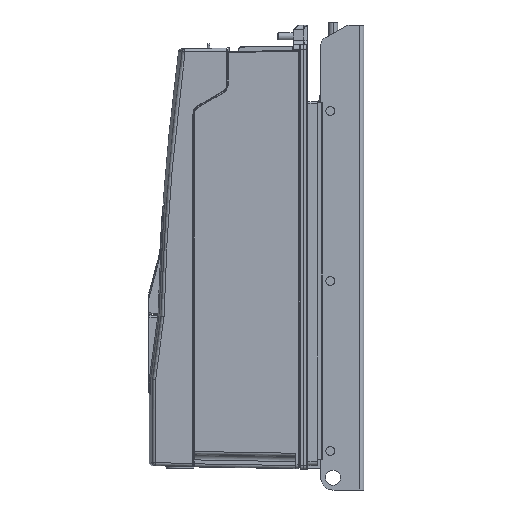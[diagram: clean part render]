
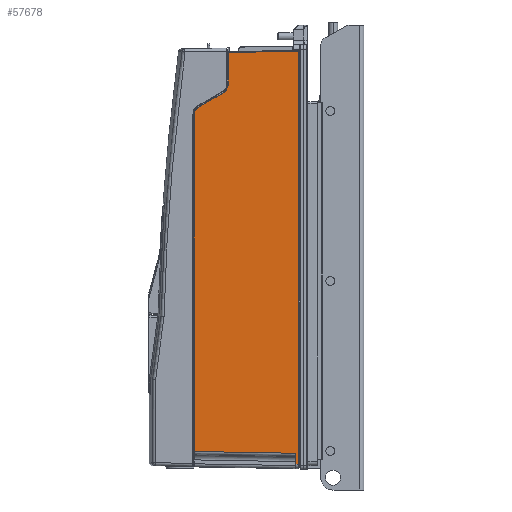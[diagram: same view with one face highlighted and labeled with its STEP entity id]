
A CAD part, left-side view. The second image highlights one B-rep face of the part: STEP entity #57678.
In plain terms, the highlighted planar face has unit normal (-1, 0.018, 0) as drawn and (1, 0.018, 0) by its records, which use the part's own axes.
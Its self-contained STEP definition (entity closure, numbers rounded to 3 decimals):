
#163 = LINE ( 'NONE', #32817, #88318 ) ;
#676 = VECTOR ( 'NONE', #83635, 1000. ) ;
#740 = EDGE_CURVE ( 'NONE', #78823, #39973, #92963, .T. ) ;
#766 = VERTEX_POINT ( 'NONE', #99404 ) ;
#1902 = CARTESIAN_POINT ( 'NONE',  ( 123.207, 5.196, 453.497 ) ) ;
#2436 = CARTESIAN_POINT ( 'NONE',  ( 123.21, 5.009, 454.037 ) ) ;
#3565 =( BOUNDED_CURVE ( )  B_SPLINE_CURVE ( 3, ( #37931, #28333, #62531, #12813 ),
 .UNSPECIFIED., .F., .F. ) 
 B_SPLINE_CURVE_WITH_KNOTS ( ( 4, 4 ),
 ( 0., 1.047 ),
 .UNSPECIFIED. ) 
 CURVE ( )  GEOMETRIC_REPRESENTATION_ITEM ( )  RATIONAL_B_SPLINE_CURVE ( ( 1., 0.911, 0.911, 1. ) ) 
 REPRESENTATION_ITEM ( '' )  );
#7037 = CARTESIAN_POINT ( 'NONE',  ( 121.186, 118.01, 64.519 ) ) ;
#7534 = VERTEX_POINT ( 'NONE', #51339 ) ;
#8317 = CARTESIAN_POINT ( 'NONE',  ( 123.212, 4.939, 453.502 ) ) ;
#8772 = CARTESIAN_POINT ( 'NONE',  ( 121.154, 119.804, 451.497 ) ) ;
#9167 = CARTESIAN_POINT ( 'NONE',  ( 123.269, 1.704, 465.997 ) ) ;
#9503 = CARTESIAN_POINT ( 'NONE',  ( 121.15, 120., 37.726 ) ) ;
#10318 = DIRECTION ( 'NONE',  ( 0.018, -1., 0.017 ) ) ;
#10452 = CARTESIAN_POINT ( 'NONE',  ( 123.213, 4.86, 454.589 ) ) ;
#10454 = B_SPLINE_CURVE_WITH_KNOTS ( 'NONE', 3,
 ( #1902, #18998, #2436, #10452, #100340, #85323 ),
 .UNSPECIFIED., .F., .F.,
 ( 4, 2, 4 ),
 ( 0., 0.001, 0.002 ),
 .UNSPECIFIED. ) ;
#12813 = CARTESIAN_POINT ( 'NONE',  ( 121.743, 86.904, 46.56 ) ) ;
#15040 = CARTESIAN_POINT ( 'NONE',  ( 121.154, 119.804, 67.626 ) ) ;
#16106 = CARTESIAN_POINT ( 'NONE',  ( 121.154, 119.804, 71.213 ) ) ;
#16999 =( BOUNDED_CURVE ( )  B_SPLINE_CURVE ( 3, ( #32681, #7037, #15040, #16106 ),
 .UNSPECIFIED., .F., .F. ) 
 B_SPLINE_CURVE_WITH_KNOTS ( ( 4, 4 ),
 ( 2.094, 3.142 ),
 .UNSPECIFIED. ) 
 CURVE ( )  GEOMETRIC_REPRESENTATION_ITEM ( )  RATIONAL_B_SPLINE_CURVE ( ( 1., 0.911, 0.911, 1. ) ) 
 REPRESENTATION_ITEM ( '' )  );
#17383 = DIRECTION ( 'NONE',  ( -1., -0.018, 0. ) ) ;
#18357 = EDGE_CURVE ( 'NONE', #7534, #39973, #87249, .T. ) ;
#18998 = CARTESIAN_POINT ( 'NONE',  ( 123.209, 5.102, 453.767 ) ) ;
#19543 = VERTEX_POINT ( 'NONE', #9167 ) ;
#22625 = EDGE_CURVE ( 'NONE', #86269, #27479, #25769, .T. ) ;
#23604 = CARTESIAN_POINT ( 'NONE',  ( 123.214, 4.804, 455.156 ) ) ;
#23964 = ORIENTED_EDGE ( 'NONE', *, *, #80888, .T. ) ;
#25518 = LINE ( 'NONE', #90287, #26708 ) ;
#25560 = DIRECTION ( 'NONE',  ( 0.018, -1., 0. ) ) ;
#25621 = CARTESIAN_POINT ( 'NONE',  ( 121.241, 114.904, 62.726 ) ) ;
#25769 = LINE ( 'NONE', #32754, #28911 ) ;
#26708 = VECTOR ( 'NONE', #50619, 1000. ) ;
#26900 = LINE ( 'NONE', #60019, #676 ) ;
#27479 = VERTEX_POINT ( 'NONE', #52251 ) ;
#28333 = CARTESIAN_POINT ( 'NONE',  ( 121.834, 81.804, 41.46 ) ) ;
#28911 = VECTOR ( 'NONE', #65342, 1000. ) ;
#29115 = EDGE_CURVE ( 'NONE', #49703, #94241, #16999, .T. ) ;
#32681 = CARTESIAN_POINT ( 'NONE',  ( 121.241, 114.904, 62.726 ) ) ;
#32754 = CARTESIAN_POINT ( 'NONE',  ( 123.214, 4.804, 471. ) ) ;
#32817 = CARTESIAN_POINT ( 'NONE',  ( 121.241, 114.901, 62.724 ) ) ;
#34035 = CARTESIAN_POINT ( 'NONE',  ( 121.743, 86.904, 46.56 ) ) ;
#34730 = EDGE_CURVE ( 'NONE', #91315, #49703, #163, .T. ) ;
#34943 = EDGE_CURVE ( 'NONE', #27479, #19543, #52495, .T. ) ;
#35083 = EDGE_CURVE ( 'NONE', #70768, #91315, #3565, .T. ) ;
#35146 = DIRECTION ( 'NONE',  ( -0.018, 1., 0.019 ) ) ;
#35315 = VECTOR ( 'NONE', #79739, 1000. ) ;
#35859 = ORIENTED_EDGE ( 'NONE', *, *, #22625, .T. ) ;
#37931 = CARTESIAN_POINT ( 'NONE',  ( 121.834, 81.804, 37.726 ) ) ;
#38163 = ORIENTED_EDGE ( 'NONE', *, *, #740, .T. ) ;
#39973 = VERTEX_POINT ( 'NONE', #103171 ) ;
#41528 = ORIENTED_EDGE ( 'NONE', *, *, #18357, .F. ) ;
#42594 = CARTESIAN_POINT ( 'NONE',  ( 121.154, 119.804, 71.213 ) ) ;
#43523 = PLANE ( 'NONE',  #66886 ) ;
#43677 = ORIENTED_EDGE ( 'NONE', *, *, #35083, .T. ) ;
#44326 = EDGE_CURVE ( 'NONE', #97689, #766, #64961, .T. ) ;
#45485 = ORIENTED_EDGE ( 'NONE', *, *, #44326, .T. ) ;
#46720 = ORIENTED_EDGE ( 'NONE', *, *, #54080, .F. ) ;
#48989 = VECTOR ( 'NONE', #10318, 1000. ) ;
#49076 = LINE ( 'NONE', #9503, #68980 ) ;
#49455 = DIRECTION ( 'NONE',  ( 0.018, -1., 0. ) ) ;
#49703 = VERTEX_POINT ( 'NONE', #25621 ) ;
#50619 = DIRECTION ( 'NONE',  ( 0., 0., -1. ) ) ;
#50946 = CARTESIAN_POINT ( 'NONE',  ( 123.275, 1.413, 466.002 ) ) ;
#51339 = CARTESIAN_POINT ( 'NONE',  ( 121.84, 81.5, 37.726 ) ) ;
#52251 = CARTESIAN_POINT ( 'NONE',  ( 123.214, 4.804, 465.943 ) ) ;
#52495 = LINE ( 'NONE', #50946, #48989 ) ;
#54080 = EDGE_CURVE ( 'NONE', #70768, #7534, #49076, .T. ) ;
#57678 = ADVANCED_FACE ( 'NONE', ( #92797 ), #43523, .F. ) ;
#57977 = DIRECTION ( 'NONE',  ( 0.018, -1., 0.017 ) ) ;
#58612 = ORIENTED_EDGE ( 'NONE', *, *, #29115, .T. ) ;
#58701 = ORIENTED_EDGE ( 'NONE', *, *, #80633, .T. ) ;
#60019 = CARTESIAN_POINT ( 'NONE',  ( 121.154, 119.804, 471. ) ) ;
#62531 = CARTESIAN_POINT ( 'NONE',  ( 121.801, 83.67, 44.693 ) ) ;
#64961 = LINE ( 'NONE', #8317, #103689 ) ;
#65342 = DIRECTION ( 'NONE',  ( 0., 0., 1. ) ) ;
#66886 = AXIS2_PLACEMENT_3D ( 'NONE', #100292, #17383, #49455 ) ;
#67581 = CARTESIAN_POINT ( 'NONE',  ( 121.84, 81.5, 471. ) ) ;
#68980 = VECTOR ( 'NONE', #25560, 1000. ) ;
#70768 = VERTEX_POINT ( 'NONE', #82349 ) ;
#72196 = EDGE_CURVE ( 'NONE', #19543, #78823, #25518, .T. ) ;
#78823 = VERTEX_POINT ( 'NONE', #84517 ) ;
#79739 = DIRECTION ( 'NONE',  ( 0., 0., -1. ) ) ;
#79998 = EDGE_LOOP ( 'NONE', ( #46720, #43677, #105508, #58612, #23964, #45485, #58701, #35859, #86295, #88308, #38163, #41528 ) ) ;
#80633 = EDGE_CURVE ( 'NONE', #766, #86269, #10454, .T. ) ;
#80888 = EDGE_CURVE ( 'NONE', #94241, #97689, #26900, .T. ) ;
#82349 = CARTESIAN_POINT ( 'NONE',  ( 121.834, 81.804, 37.726 ) ) ;
#83635 = DIRECTION ( 'NONE',  ( 0., 0., 1. ) ) ;
#84517 = CARTESIAN_POINT ( 'NONE',  ( 123.269, 1.704, -0.542 ) ) ;
#85323 = CARTESIAN_POINT ( 'NONE',  ( 123.214, 4.804, 455.156 ) ) ;
#86269 = VERTEX_POINT ( 'NONE', #23604 ) ;
#86295 = ORIENTED_EDGE ( 'NONE', *, *, #34943, .T. ) ;
#87249 = LINE ( 'NONE', #67581, #35315 ) ;
#88308 = ORIENTED_EDGE ( 'NONE', *, *, #72196, .T. ) ;
#88318 = VECTOR ( 'NONE', #97039, 1000. ) ;
#90287 = CARTESIAN_POINT ( 'NONE',  ( 123.269, 1.704, 471. ) ) ;
#91315 = VERTEX_POINT ( 'NONE', #34035 ) ;
#92437 = CARTESIAN_POINT ( 'NONE',  ( 120.989, 129.004, 1.902 ) ) ;
#92797 = FACE_OUTER_BOUND ( 'NONE', #79998, .T. ) ;
#92963 = LINE ( 'NONE', #92437, #102248 ) ;
#94241 = VERTEX_POINT ( 'NONE', #42594 ) ;
#97039 = DIRECTION ( 'NONE',  ( -0.016, 0.866, 0.5 ) ) ;
#97689 = VERTEX_POINT ( 'NONE', #8772 ) ;
#99404 = CARTESIAN_POINT ( 'NONE',  ( 123.207, 5.196, 453.497 ) ) ;
#100292 = CARTESIAN_POINT ( 'NONE',  ( 121.15, 120., 471. ) ) ;
#100340 = CARTESIAN_POINT ( 'NONE',  ( 123.214, 4.804, 454.869 ) ) ;
#102248 = VECTOR ( 'NONE', #35146, 1000. ) ;
#103171 = CARTESIAN_POINT ( 'NONE',  ( 121.84, 81.5, 0.99 ) ) ;
#103689 = VECTOR ( 'NONE', #57977, 1000. ) ;
#105508 = ORIENTED_EDGE ( 'NONE', *, *, #34730, .T. ) ;
